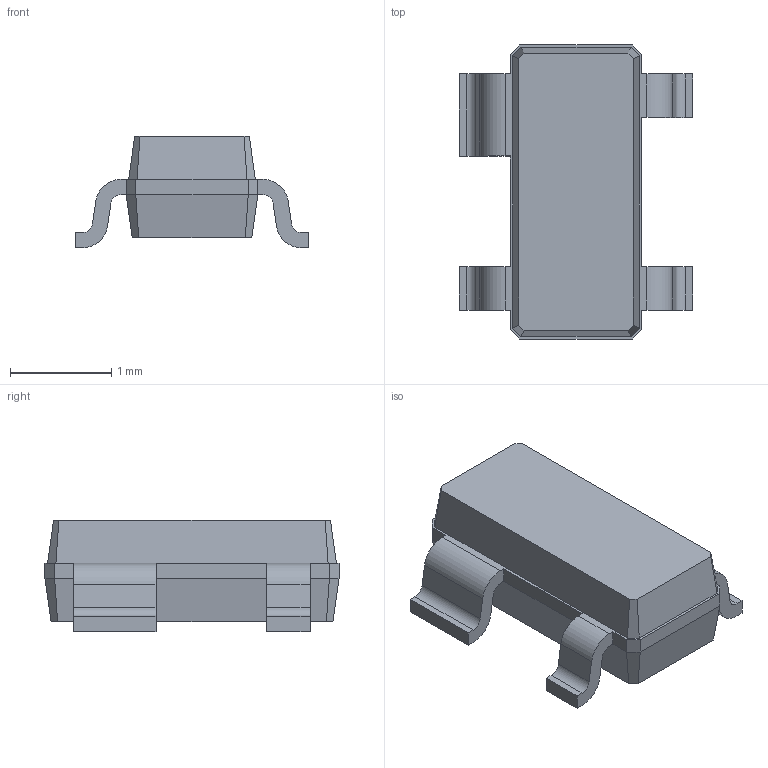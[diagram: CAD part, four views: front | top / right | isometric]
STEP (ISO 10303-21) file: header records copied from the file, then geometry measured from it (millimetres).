
FILE_DESCRIPTION(/* description */ ('STEP AP242 Edition 2','CAx-IF Rec.Pracs.---Representation and Presentation of Product Manufacturing Information (PMI)---4.0---2014-10-13','CAx-IF Rec.Pracs.---3D Tessellated Geometry---0.4---2014-09-14','2;1','CAx-IF Rec.Pracs.---User Defined Attributes---1.5---2016-08-15'),/* implementation_level */ '2;1');
FILE_NAME(/* name */ 'v2_assembly - SOT-143',/* time_stamp */ '2026-05-19T16:26:07Z',/* author */ (''),/* organization */ (''),/* preprocessor_version */ 'ST-DEVELOPER v20',/* originating_system */ 'ONSHAPE BY PTC INC, 1.215',/* authorisation */ ' ');
FILE_SCHEMA (('AP242_MANAGED_MODEL_BASED_3D_ENGINEERING_MIM_LF { 1 0 10303 442 3 1 4 }'));
Length unit declared in the file: metre
Products named in the file (1): SOT-143
Bounding box: 2.3 x 2.9 x 1.1 mm (x, y, z)
Volume: 3.7 mm3; surface area: 19.1 mm2
Topology: 1 solids, 1 shells, 79 faces, 212 edges, 136 vertices
Faces by surface type: plane 63, cylinder 16
Entity records: 2656 total; most frequent: CARTESIAN_POINT 428, ORIENTED_EDGE 424, DIRECTION 404, EDGE_CURVE 212, LINE 180, VECTOR 180, VERTEX_POINT 136, AXIS2_PLACEMENT_3D 112
